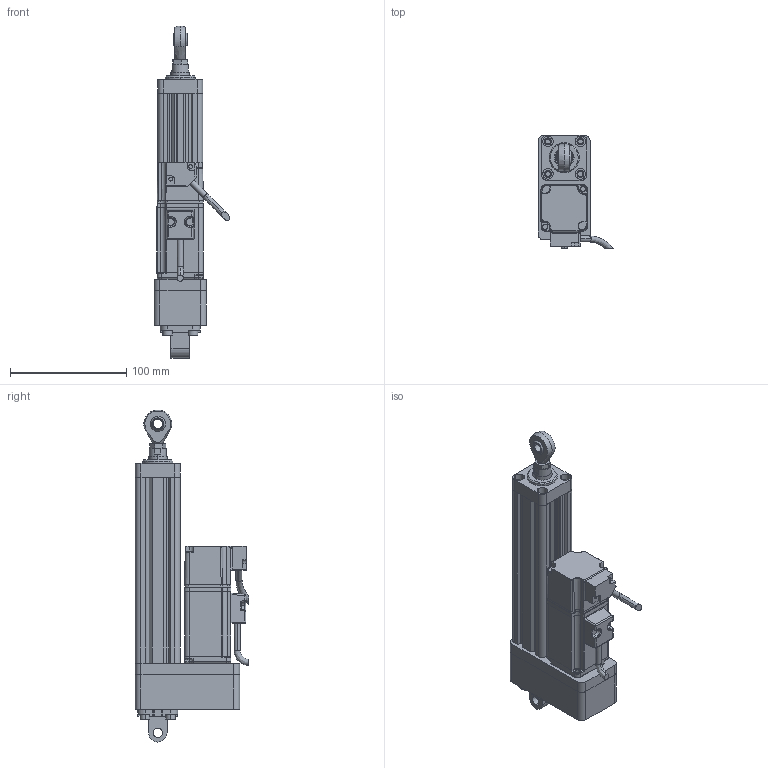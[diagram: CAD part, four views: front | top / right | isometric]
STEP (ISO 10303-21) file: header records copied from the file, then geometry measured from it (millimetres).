
FILE_DESCRIPTION (( 'STEP AP214' ), '1' );
FILE_NAME ('039-S100-D02-B-M5-C4-2.STEP', '2021-03-02T04:56:59', ( '' ), ( '' ), 'SwSTEP 2.0', 'SolidWorks 2018', '' );
FILE_SCHEMA (( 'AUTOMOTIVE_DESIGN' ));
Length unit declared in the file: millimetre
Products named in the file (10): 039-S100-D02-B-M5-C4-2; CMC039-DT; ECMA-CX0401ES-40框號系列機種-100W低慣量系列; CMC039-HXT; CMC039-LJB; BNC51-SA8T_K-R; F-ACE20CA_ACE_; CMC039-FL; GB／T6174-2000六角薄螺母无倒角M8; CMC039-GT
Assembly tree (9 placements, depth 2):
  039-S100-D02-B-M5-C4-2
    CMC039-GT
    CMC039-LJB
    CMC039-FL
    CMC039-DT
    ECMA-CX0401ES-40框號系列機種-100W低慣量系列
    CMC039-HXT
    F-ACE20CA_ACE_
    GB／T6174-2000六角薄螺母无倒角M8
    BNC51-SA8T_K-R
Bounding box: 65.34 x 97.89 x 286 mm (x, y, z)
Volume: 429866.4 mm3; surface area: 136243.9 mm2
Topology: 10 solids, 18 shells, 807 faces, 2112 edges, 1324 vertices
Faces by surface type: cylinder 327, plane 315, bspline 102, cone 63
Entity records: 32316 total; most frequent: CARTESIAN_POINT 12833, ORIENTED_EDGE 4138, DIRECTION 3501, EDGE_CURVE 2069, VERTEX_POINT 1324, AXIS2_PLACEMENT_3D 1253, VECTOR 995, LINE 995
